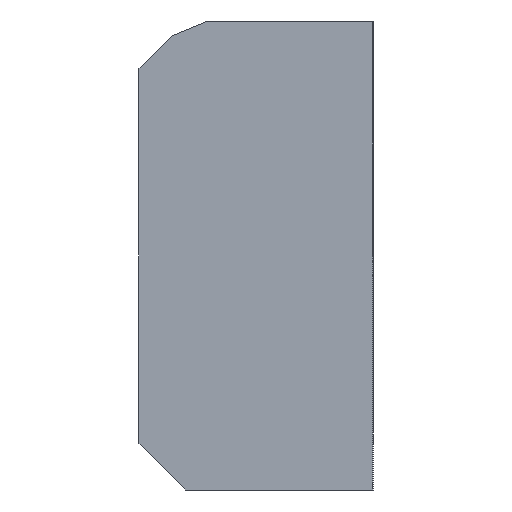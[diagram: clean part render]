
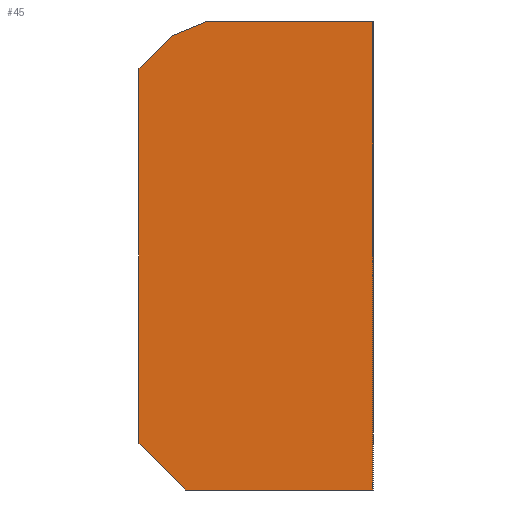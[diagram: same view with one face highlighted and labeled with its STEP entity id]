
A CAD part, front view. The second image highlights one B-rep face of the part: STEP entity #45.
In plain terms, the highlighted planar face has unit normal (0, -1, 0).
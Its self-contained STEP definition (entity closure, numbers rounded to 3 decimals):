
#45=ADVANCED_FACE('',(#66),#210,.T.);
#66=FACE_OUTER_BOUND('',#87,.F.);
#87=EDGE_LOOP('',(#118,#119,#120,#121,#122,#123,#124));
#118=ORIENTED_EDGE('',*,*,#259,.T.);
#119=ORIENTED_EDGE('',*,*,#268,.F.);
#120=ORIENTED_EDGE('',*,*,#262,.F.);
#121=ORIENTED_EDGE('',*,*,#245,.T.);
#122=ORIENTED_EDGE('',*,*,#265,.T.);
#123=ORIENTED_EDGE('',*,*,#257,.T.);
#124=ORIENTED_EDGE('',*,*,#242,.T.);
#210=PLANE('',#406);
#242=EDGE_CURVE('',#383,#382,#291,.T.);
#245=EDGE_CURVE('',#379,#378,#294,.T.);
#257=EDGE_CURVE('',#368,#383,#298,.T.);
#259=EDGE_CURVE('',#382,#367,#300,.T.);
#262=EDGE_CURVE('',#379,#365,#303,.T.);
#265=EDGE_CURVE('',#378,#368,#306,.T.);
#268=EDGE_CURVE('',#365,#367,#309,.T.);
#291=LINE('',#569,#324);
#294=LINE('',#572,#327);
#298=LINE('',#584,#331);
#300=LINE('',#586,#333);
#303=LINE('',#589,#336);
#306=LINE('',#592,#339);
#309=LINE('',#595,#342);
#324=VECTOR('',#429,0.383);
#327=VECTOR('',#432,0.707);
#331=VECTOR('',#452,0.5);
#333=VECTOR('',#454,1.793);
#336=VECTOR('',#457,2.);
#339=VECTOR('',#460,4.);
#342=VECTOR('',#463,5.);
#365=VERTEX_POINT('',#547);
#367=VERTEX_POINT('',#549);
#368=VERTEX_POINT('',#550);
#378=VERTEX_POINT('',#560);
#379=VERTEX_POINT('',#561);
#382=VERTEX_POINT('',#564);
#383=VERTEX_POINT('',#565);
#406=AXIS2_PLACEMENT_3D('',#619,#497,#498);
#429=DIRECTION('',(0.924,0.,0.383));
#432=DIRECTION('',(-0.707,0.,0.707));
#452=DIRECTION('',(0.707,0.,0.707));
#454=DIRECTION('',(1.,0.,0.));
#457=DIRECTION('',(1.,0.,0.));
#460=DIRECTION('',(0.,0.,1.));
#463=DIRECTION('',(0.,0.,1.));
#497=DIRECTION('',(0.,-1.,0.));
#498=DIRECTION('',(1.,0.,0.));
#547=CARTESIAN_POINT('',(311.542,402.852,345.374));
#549=CARTESIAN_POINT('',(311.542,402.852,350.374));
#550=CARTESIAN_POINT('',(309.042,402.852,349.874));
#560=CARTESIAN_POINT('',(309.042,402.852,345.874));
#561=CARTESIAN_POINT('',(309.542,402.852,345.374));
#564=CARTESIAN_POINT('',(309.749,402.852,350.374));
#565=CARTESIAN_POINT('',(309.395,402.852,350.227));
#569=CARTESIAN_POINT('',(309.395,402.852,350.227));
#572=CARTESIAN_POINT('',(309.542,402.852,345.374));
#584=CARTESIAN_POINT('',(309.042,402.852,349.874));
#586=CARTESIAN_POINT('',(309.749,402.852,350.374));
#589=CARTESIAN_POINT('',(309.542,402.852,345.374));
#592=CARTESIAN_POINT('',(309.042,402.852,345.874));
#595=CARTESIAN_POINT('',(311.542,402.852,345.374));
#619=CARTESIAN_POINT('',(308.992,402.852,345.324));
